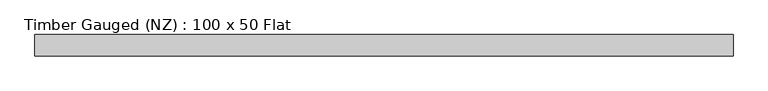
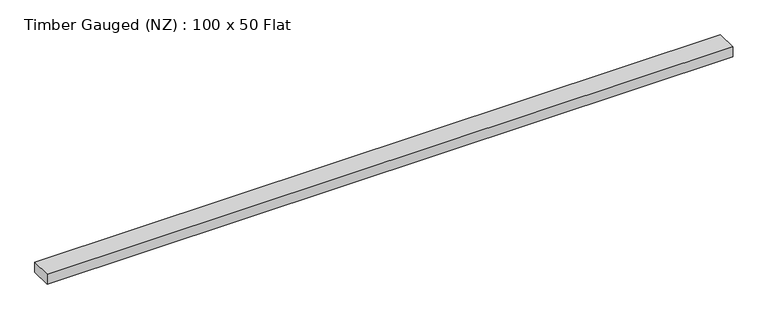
"""IFC4 building model written with IfcOpenShell, lengths in millimetres: beam geometry, Timber Gauged (NZ) : 100 x 50 Flat."""

from ifc_helpers import new_model, si_unit, frame, origin, place, context, project, spatial, polyline, outline, extrude, source, transform, mapped, element, save


def timber_gauged_nz_100_x_50_flat_212af973(model_context):
    return source(origin(), model_context, "Body", "SweptSolid", [
        extrude(outline(polyline([(1528.5, 47.0), (1528.5, -47.0), (-1541.5, -47.0), (-1541.5, 47.0), (1528.5, 47.0)])), frame((0.0, 0.0, -23.5), z_axis=(0.0, 0.0, 1.0), x_axis=(1.0, 0.0, 0.0)), (0.0, 0.0, 1.0), 47.0),
    ])


if __name__ == "__main__":
    model = new_model("IFC4")
    model_context = context("Model", 3, world=origin())
    ifc_project = project(units=[si_unit("LENGTHUNIT", "METRE", prefix="MILLI")], contexts=[model_context])
    site = spatial("IfcSite", under=ifc_project)
    building = spatial("IfcBuilding", under=site)
    placement = place(None, origin())
    timber_gauged_nz_100_x_50_flat_shape = timber_gauged_nz_100_x_50_flat_212af973(model_context)
    element("IfcBeam", 1, ObjectType="Timber Gauged (NZ) : 100 x 50 Flat", at=placement, inside=building, context=model_context, shape_type="MappedRepresentation", body=[
        mapped(timber_gauged_nz_100_x_50_flat_shape, transform((0.0, 0.0, 0.0), x_axis=(1.0, 0.0, 0.0), y_axis=(0.0, 1.0, 0.0), z_axis=(0.0, 0.0, 1.0))),
    ])
    save(model, "model.ifc")
